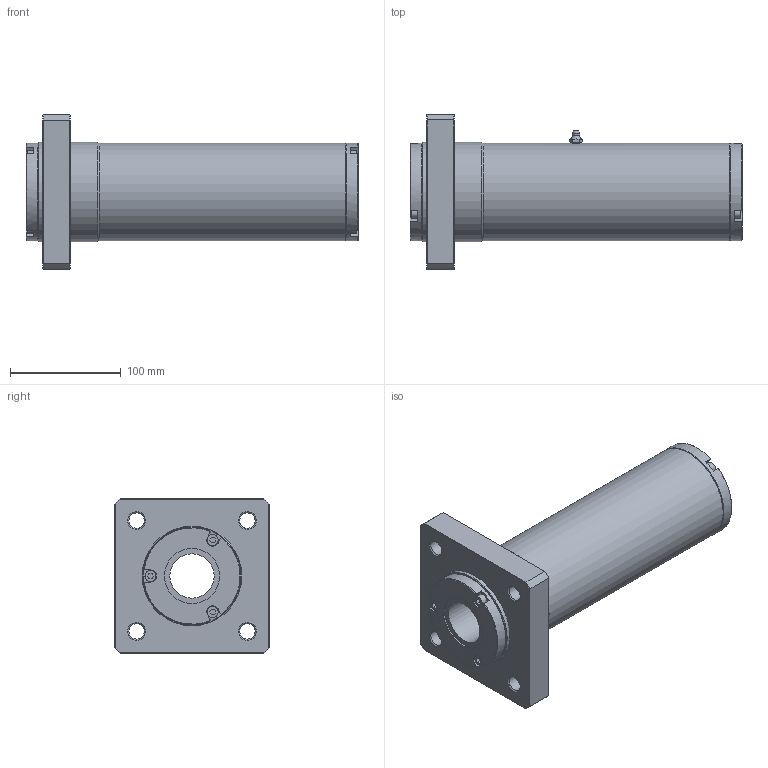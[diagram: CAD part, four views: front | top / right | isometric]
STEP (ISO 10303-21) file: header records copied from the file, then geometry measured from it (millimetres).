
FILE_DESCRIPTION(('STEP AP203'),'1');
FILE_NAME('//192.168.1.1/share/s-4 技術開発/s-4-14_個人別フォルダ/橋詰/09_CAD_DATA/3D/HP用/3Ｄモデル/LCF/LCF-C/LCF-40CVUU.step','2022-02-04T02:46:35',(' '),(' '),'Spatial InterOp 3D',' ',' ');
FILE_SCHEMA(('CONFIG_CONTROL_DESIGN'));
Length unit declared in the file: millimetre
Products named in the file (1): 1
Bounding box: 300 x 140 x 140 mm (x, y, z)
Volume: 1771980.5 mm3; surface area: 169779.9 mm2
Topology: 1 solids, 2 shells, 177 faces, 426 edges, 271 vertices
Faces by surface type: plane 100, cone 43, cylinder 31, torus 2, sphere 1
Full cylindrical faces by diameter (mm): 6.6 x1, 8.566 x2, 10 x6, 14 x4, 40 x1, 50 x2, 88 x3, 90 x2
Entity records: 5088 total; most frequent: CARTESIAN_POINT 1175, DIRECTION 786, ORIENTED_EDGE 740, EDGE_CURVE 370, AXIS2_PLACEMENT_3D 297, VERTEX_POINT 258, EDGE_LOOP 246, FACE_OUTER_BOUND 200
